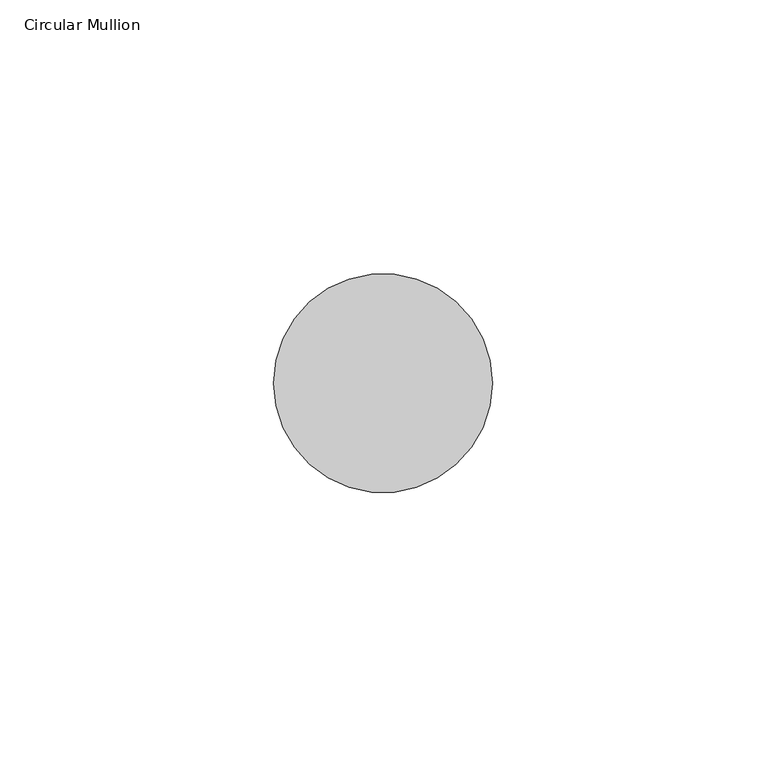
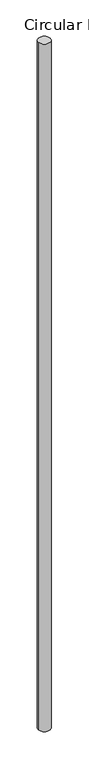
"""IFC4 building model written with IfcOpenShell, lengths in millimetres: member geometry, Circular Mullion : GRADIL 40mm."""

from ifc_helpers import new_model, si_unit, point, frame, origin, origin_2d, place, context, project, spatial, circle_curve, trimmed, segment, composite_curve, outline, extrude, source, transform, mapped, element, save


def circular_mullion_17b90b03(model_context):
    return source(origin(), model_context, "Body", "SweptSolid", [
        extrude(outline(composite_curve([segment(trimmed(circle_curve(origin_2d(), 20.0), [point((20.0, 0.0))], [point((-20.0, 0.0))], False, "CARTESIAN"), True, "CONTINUOUS"), segment(trimmed(circle_curve(origin_2d(), 20.0), [point((-20.0, 0.0))], [point((20.0, 0.0))], False, "CARTESIAN"), True, "CONTINUOUS")], self_intersect=False)), frame((0.0, 0.0, -2441.7244845), z_axis=(0.0, 0.0, 1.0), x_axis=(1.0, 0.0, 0.0)), (0.0, 0.0, 1.0), 2441.7244845),
    ])


if __name__ == "__main__":
    model = new_model("IFC4")
    model_context = context("Model", 3, world=origin())
    ifc_project = project(units=[si_unit("LENGTHUNIT", "METRE", prefix="MILLI")], contexts=[model_context])
    site = spatial("IfcSite", under=ifc_project)
    building = spatial("IfcBuilding", under=site)
    placement = place(None, origin())
    circular_mullion_shape = circular_mullion_17b90b03(model_context)
    element("IfcMember", 1, ObjectType="Circular Mullion : GRADIL 40mm", at=placement, inside=building, context=model_context, shape_type="MappedRepresentation", body=[
        mapped(circular_mullion_shape, transform((0.0, 0.0, 0.0), x_axis=(1.0, 0.0, 0.0), y_axis=(0.0, 1.0, 0.0), z_axis=(0.0, 0.0, 1.0))),
    ])
    save(model, "model.ifc")
